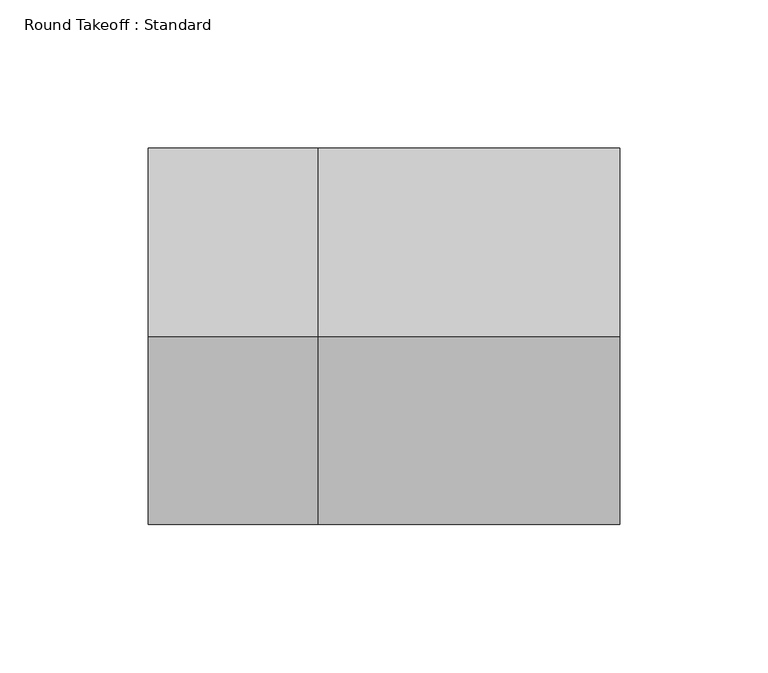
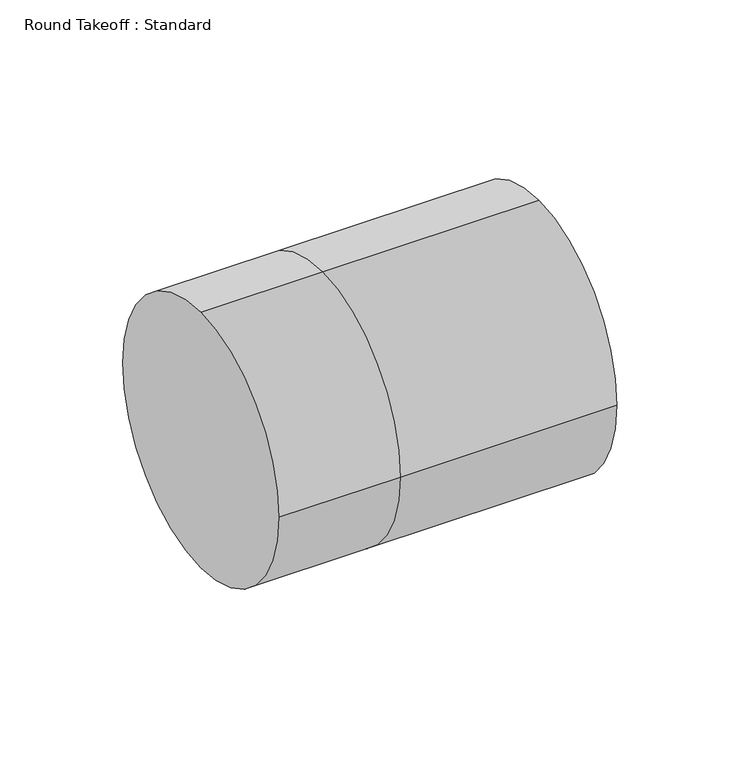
"""IFC4 building model written with IfcOpenShell, lengths in millimetres: duct fitting geometry, Round Takeoff : Standard."""

from ifc_helpers import new_model, si_unit, frame, origin, place, context, project, spatial, circle_curve, source, transform, mapped, element, save
from ifc_brep_helpers import plane_surface, cylinder_surface, advanced_brep


def round_takeoff_standard_cae0fe22(model_context):
    return source(origin(), model_context, "Body", "AdvancedBrep", [
        advanced_brep(
        [(101.6, 0.0, 63.5), (101.6, -63.5, 0.0), (101.6, 0.0, -63.5), (101.6, 63.5, 0.0), (0.0, 63.5, 0.0), (0.0, 0.0, 63.5), (0.0, 0.0, -63.5), (0.0, -63.5, 0.0), (-57.404, 0.0, 63.5), (-57.404, 63.5, 0.0), (-57.404, 0.0, -63.5), (-57.404, -63.5, 0.0)],
        [
            (0, 1, circle_curve(frame((101.6, 0.0, 0.0), z_axis=(1.0, 0.0, 0.0), x_axis=(0.0, 1.0, 0.0)), 63.5)),
            (1, 2, circle_curve(frame((101.6, 0.0, 0.0), z_axis=(1.0, 0.0, 0.0), x_axis=(0.0, 1.0, 0.0)), 63.5)),
            (2, 3, circle_curve(frame((101.6, 0.0, 0.0), z_axis=(1.0, 0.0, 0.0), x_axis=(0.0, 1.0, 0.0)), 63.5)),
            (3, 0, circle_curve(frame((101.6, 0.0, 0.0), z_axis=(1.0, 0.0, 0.0), x_axis=(0.0, 1.0, 0.0)), 63.5)),
            (3, 4),
            (4, 5, circle_curve(frame((0.0, 0.0, 0.0), z_axis=(1.0, 0.0, 0.0), x_axis=(0.0, 1.0, 0.0)), 63.5)),
            (5, 0),
            (2, 6),
            (6, 4, circle_curve(frame((0.0, 0.0, 0.0), z_axis=(1.0, 0.0, 0.0), x_axis=(0.0, 1.0, 0.0)), 63.5)),
            (1, 7),
            (7, 6, circle_curve(frame((0.0, 0.0, 0.0), z_axis=(1.0, 0.0, 0.0), x_axis=(0.0, 1.0, 0.0)), 63.5)),
            (5, 7, circle_curve(frame((0.0, 0.0, 0.0), z_axis=(1.0, 0.0, 0.0), x_axis=(0.0, 1.0, 0.0)), 63.5)),
            (8, 9, circle_curve(frame((-57.404, 0.0, 0.0), z_axis=(-1.0, 0.0, 0.0), x_axis=(0.0, 1.0, 0.0)), 63.5)),
            (9, 10, circle_curve(frame((-57.404, 0.0, 0.0), z_axis=(-1.0, 0.0, 0.0), x_axis=(0.0, 1.0, 0.0)), 63.5)),
            (10, 11, circle_curve(frame((-57.404, 0.0, 0.0), z_axis=(-1.0, 0.0, 0.0), x_axis=(0.0, 1.0, 0.0)), 63.5)),
            (11, 8, circle_curve(frame((-57.404, 0.0, 0.0), z_axis=(-1.0, 0.0, 0.0), x_axis=(0.0, 1.0, 0.0)), 63.5)),
            (8, 5),
            (4, 9),
            (6, 10),
            (7, 11),
        ],
        [
            plane_surface(frame((101.6, 0.0, 0.0), z_axis=(1.0, 0.0, 0.0), x_axis=(0.0, 0.0, 1.0))),
            cylinder_surface(frame((0.0, 0.0, 0.0), z_axis=(-1.0, 0.0, 0.0), x_axis=(0.0, 1.0, 0.0)), 63.5),
            plane_surface(frame((-57.404, 0.0, 0.0), z_axis=(-1.0, 0.0, 0.0), x_axis=(0.0, 0.0, 1.0))),
            cylinder_surface(frame((-57.404, 0.0, 0.0), z_axis=(-1.0, 0.0, 0.0), x_axis=(0.0, 1.0, 0.0)), 63.5),
        ],
        [
            (0, [[1, 2, 3, 4]]),
            (1, [[-4, 5, 6, 7]]),
            (1, [[-3, 8, 9, -5]]),
            (1, [[-2, 10, 11, -8]]),
            (1, [[-1, -7, 12, -10]]),
            (2, [[13, 14, 15, 16]]),
            (3, [[-13, 17, -6, 18]]),
            (3, [[-14, -18, -9, 19]]),
            (3, [[-15, -19, -11, 20]]),
            (3, [[-16, -20, -12, -17]]),
        ],
    ),
    ])


if __name__ == "__main__":
    model = new_model("IFC4")
    model_context = context("Model", 3, world=origin())
    ifc_project = project(units=[si_unit("LENGTHUNIT", "METRE", prefix="MILLI")], contexts=[model_context])
    site = spatial("IfcSite", under=ifc_project)
    building = spatial("IfcBuilding", under=site)
    placement = place(None, origin())
    round_takeoff_standard_shape = round_takeoff_standard_cae0fe22(model_context)
    element("IfcDuctFitting", 1, ObjectType="Round Takeoff : Standard", at=placement, inside=building, context=model_context, shape_type="MappedRepresentation", body=[
        mapped(round_takeoff_standard_shape, transform((0.0, 0.0, 0.0), x_axis=(1.0, 0.0, 0.0), y_axis=(0.0, 1.0, 0.0), z_axis=(0.0, 0.0, 1.0))),
    ])
    save(model, "model.ifc")
